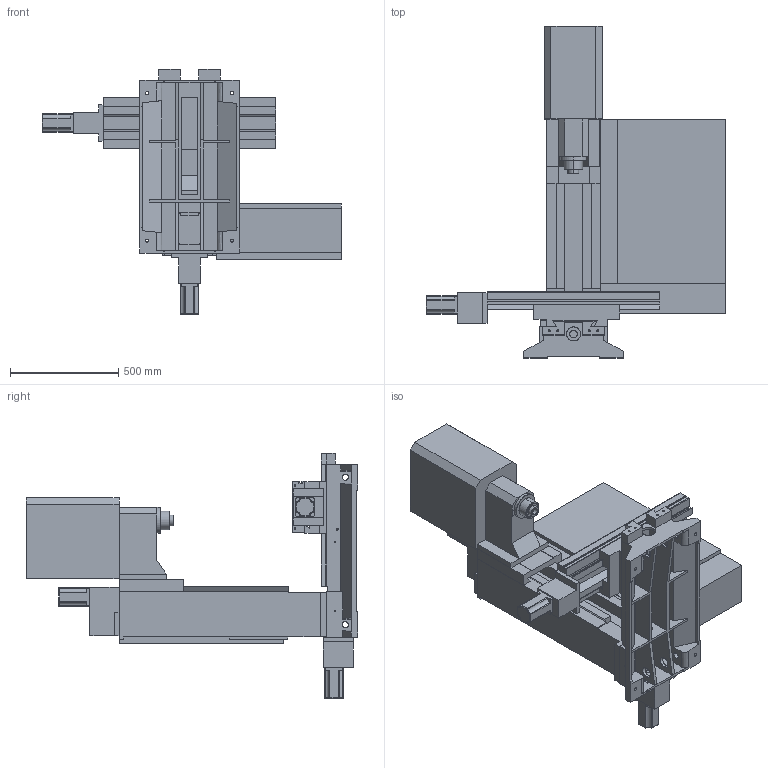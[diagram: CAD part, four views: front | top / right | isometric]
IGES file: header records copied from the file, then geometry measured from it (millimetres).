
Start section: SolidWorks IGES file using analytic representation for surfaces
Global section: file name: R:\Drawings\Files saved as other types\Solid_Models\MODELS FOR PUBLIC\32085_PCNC_1100_MACHINE.IGS; native system: SolidWorks 2012; preprocessor: SolidWorks 2012; author: rtooley; date: 141216.092303; units: millimetre
Bounding box: 1387 x 1535 x 1134 mm (x, y, z)
Surface area: 8902731.6 mm2 (no closed solid volume)
Topology: 0 solids, 0 shells, 715 faces, 8748 edges, 8706 vertices
Faces by surface type: bspline 467, revolution 248
